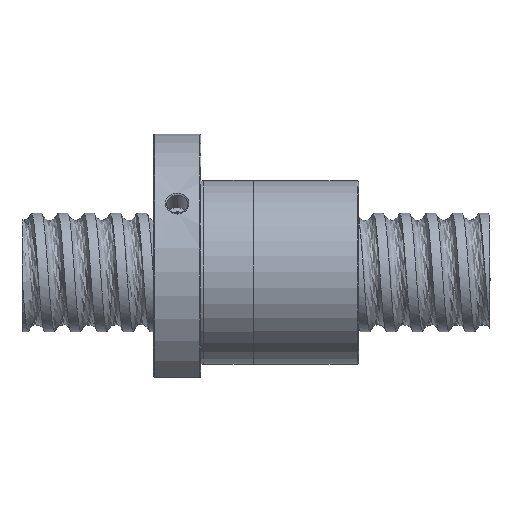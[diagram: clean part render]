
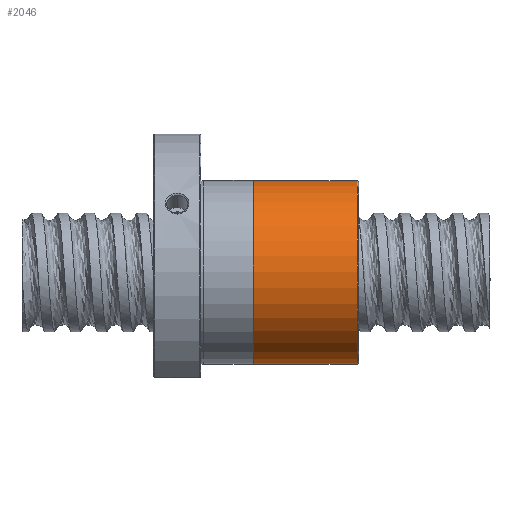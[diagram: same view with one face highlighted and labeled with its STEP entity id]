
A CAD part, front view. The second image highlights one B-rep face of the part: STEP entity #2046.
In plain terms, the highlighted cylindrical face has radius 34.9 mm (diameter 69.8 mm), a partial arc.
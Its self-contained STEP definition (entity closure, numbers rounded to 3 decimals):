
#1205 = VERTEX_POINT ( 'NONE', #21153 ) ;
#1230 = VERTEX_POINT ( 'NONE', #21407 ) ;
#1550 = EDGE_CURVE ( 'NONE', #1205, #1551, #22323, .T. ) ;
#1551 = VERTEX_POINT ( 'NONE', #22380 ) ;
#1554 = VERTEX_POINT ( 'NONE', #22374 ) ;
#1556 = EDGE_CURVE ( 'NONE', #1230, #1554, #22373, .T. ) ;
#1669 = EDGE_LOOP ( 'NONE', ( #1670, #1671, #2080, #2081 ) ) ;
#1670 = ORIENTED_EDGE ( 'NONE', *, *, #1550, .F. ) ;
#1671 = ORIENTED_EDGE ( 'NONE', *, *, #1672, .T. ) ;
#1672 = EDGE_CURVE ( 'NONE', #1205, #1230, #22634, .T. ) ;
#2042 = EDGE_CURVE ( 'NONE', #1551, #1554, #14186, .T. ) ;
#2046 = ADVANCED_FACE ( 'NONE', ( #14182 ), #14181, .T. ) ;
#2080 = ORIENTED_EDGE ( 'NONE', *, *, #1556, .T. ) ;
#2081 = ORIENTED_EDGE ( 'NONE', *, *, #2042, .F. ) ;
#14177 = DIRECTION ( 'NONE',  ( 0., 0., 1. ) ) ;
#14178 = DIRECTION ( 'NONE',  ( -1., 0., 0. ) ) ;
#14179 = CARTESIAN_POINT ( 'NONE',  ( 0., 0., 0. ) ) ;
#14180 = AXIS2_PLACEMENT_3D ( 'NONE', #14179, #14178, #14177 ) ;
#14181 = CYLINDRICAL_SURFACE ( 'NONE', #14180, 34.9 ) ;
#14182 = FACE_OUTER_BOUND ( 'NONE', #1669, .T. ) ;
#14183 = DIRECTION ( 'NONE',  ( 0., 0., 1. ) ) ;
#14184 = DIRECTION ( 'NONE',  ( -1., 0., 0. ) ) ;
#14185 = AXIS2_PLACEMENT_3D ( 'NONE', #14191, #14184, #14183 ) ;
#14186 = CIRCLE ( 'NONE', #14185, 34.9 ) ;
#14191 = CARTESIAN_POINT ( 'NONE',  ( -40., 0., 0. ) ) ;
#21153 = CARTESIAN_POINT ( 'NONE',  ( -0.5, 0., -34.9 ) ) ;
#21407 = CARTESIAN_POINT ( 'NONE',  ( -0.5, 0., 34.9 ) ) ;
#22322 = CARTESIAN_POINT ( 'NONE',  ( 0., 0., -34.9 ) ) ;
#22323 = LINE ( 'NONE', #22322, #22382 ) ;
#22370 = DIRECTION ( 'NONE',  ( -1., 0., 0. ) ) ;
#22371 = VECTOR ( 'NONE', #22370, 1000. ) ;
#22372 = CARTESIAN_POINT ( 'NONE',  ( 0., 0., 34.9 ) ) ;
#22373 = LINE ( 'NONE', #22372, #22371 ) ;
#22374 = CARTESIAN_POINT ( 'NONE',  ( -40., 0., 34.9 ) ) ;
#22380 = CARTESIAN_POINT ( 'NONE',  ( -40., 0., -34.9 ) ) ;
#22381 = DIRECTION ( 'NONE',  ( -1., 0., 0. ) ) ;
#22382 = VECTOR ( 'NONE', #22381, 1000. ) ;
#22625 = DIRECTION ( 'NONE',  ( 0., 0., -1. ) ) ;
#22626 = DIRECTION ( 'NONE',  ( -1., 0., 0. ) ) ;
#22627 = CARTESIAN_POINT ( 'NONE',  ( -0.5, 0., 0. ) ) ;
#22628 = AXIS2_PLACEMENT_3D ( 'NONE', #22627, #22626, #22625 ) ;
#22634 = CIRCLE ( 'NONE', #22628, 34.9 ) ;
